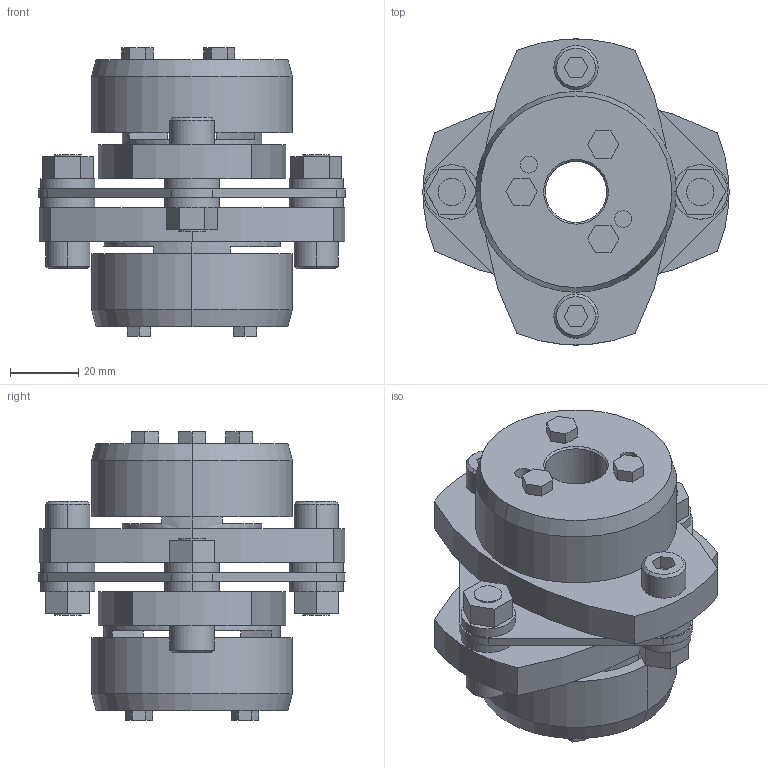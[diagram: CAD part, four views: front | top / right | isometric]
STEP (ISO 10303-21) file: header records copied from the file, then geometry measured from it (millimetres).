
FILE_DESCRIPTION((''),'2;1');
FILE_NAME('LCS-90T7-18×32.stp','2015-11-01T20:14:49',(''),(''),'AutoCAD STEP 2000i','AutoCAD 2000i',', , ');
FILE_SCHEMA(('CONFIG_CONTROL_DESIGN'));
Length unit declared in the file: millimetre
Products named in the file (10): LCS-90T7-19×32; 忣兜1; LC90T7-T032; LC90T7-T030; LC90T7-T025; LC90T7-T019-1; LC90T7-T019; LC90-B019-1; LC90-B019; LCS90-ITA
Assembly tree (9 placements, depth 2):
  LCS-90T7-19×32
    忣兜1
    LC90T7-T032
    LC90T7-T030
    LC90T7-T025
    LC90T7-T019-1
    LC90T7-T019
    LC90-B019-1
    LC90-B019
    LCS90-ITA
Bounding box: 90 x 89.94 x 84.8 mm (x, y, z)
Volume: 193693.9 mm3; surface area: 51643 mm2
Topology: 1 solids, 1 shells, 239 faces, 586 edges, 384 vertices
Faces by surface type: plane 139, cylinder 80, cone 20
Entity records: 7313 total; most frequent: DIRECTION 1280, CARTESIAN_POINT 1219, ORIENTED_EDGE 1172, EDGE_CURVE 586, AXIS2_PLACEMENT_3D 445, VECTOR 390, LINE 390, VERTEX_POINT 384
